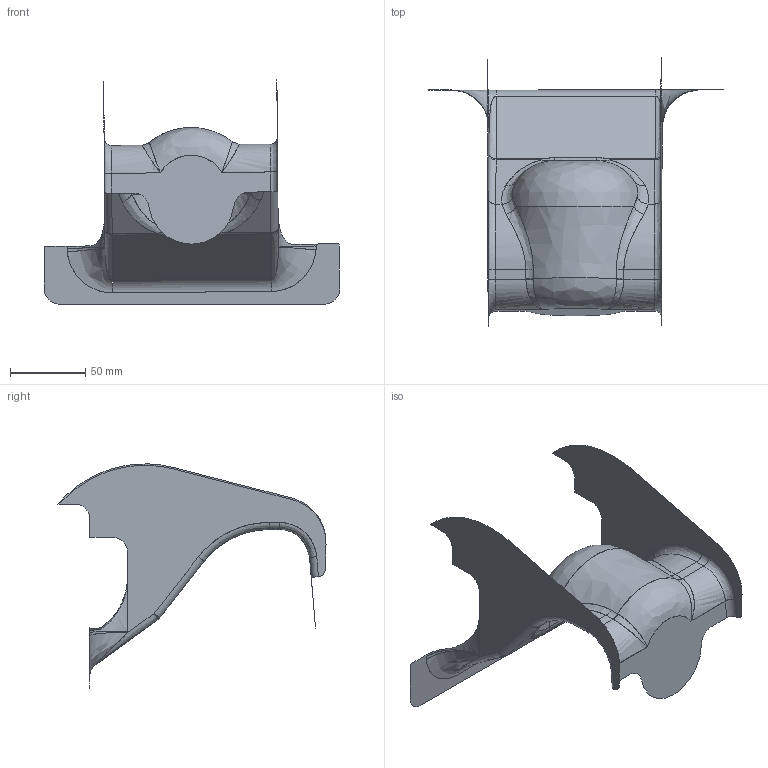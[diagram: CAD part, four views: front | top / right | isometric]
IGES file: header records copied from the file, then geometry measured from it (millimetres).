
Start section: START IGES DATA FILE
Global section: file name: C:\Documents; native system: DYNAFORM VER.1.0,DYNAFORM IGES TRANSLATOR, ENGINEERING TECHNOLOGY ASSOCIATES, INC.; preprocessor: 001030; date: 020520.083919; units: millimetre
Bounding box: 196.81 x 178.48 x 149.32 mm (x, y, z)
Surface area: 50984.5 mm2 (no closed solid volume)
Topology: 0 solids, 0 shells, 61 faces, 1068 edges, 1066 vertices
Faces by surface type: bspline 61
